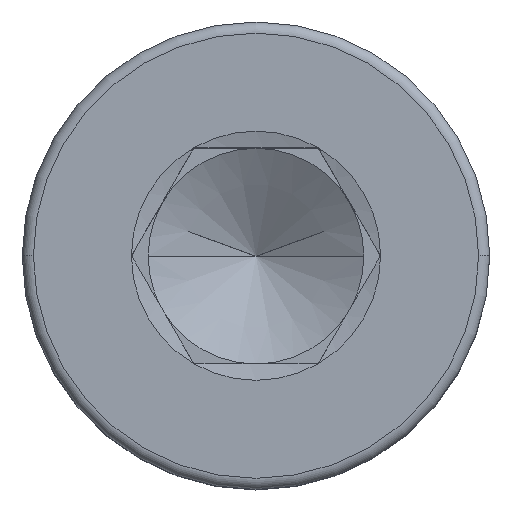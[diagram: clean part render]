
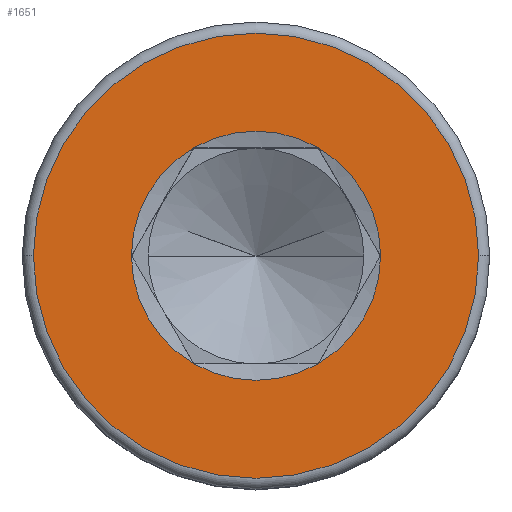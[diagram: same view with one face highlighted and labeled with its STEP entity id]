
A CAD part, top view. The second image highlights one B-rep face of the part: STEP entity #1651.
In plain terms, the highlighted planar face has unit normal (0, 0, 1).
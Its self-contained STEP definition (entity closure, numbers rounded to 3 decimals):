
#33 = AXIS2_PLACEMENT_3D ( 'NONE', #996, #1138, #444 ) ;
#43 = CARTESIAN_POINT ( 'NONE',  ( 3.464, 0., 8. ) ) ;
#86 = CIRCLE ( 'NONE', #488, 3.464 ) ;
#106 = EDGE_LOOP ( 'NONE', ( #1007, #1100 ) ) ;
#152 = CIRCLE ( 'NONE', #1048, 6.19 ) ;
#211 = CARTESIAN_POINT ( 'NONE',  ( 0., 0., 8. ) ) ;
#255 = FACE_BOUND ( 'NONE', #278, .T. ) ;
#261 = CIRCLE ( 'NONE', #1309, 6.19 ) ;
#263 = DIRECTION ( 'NONE',  ( 0., 0., 1. ) ) ;
#268 = DIRECTION ( 'NONE',  ( 1., 0., 0. ) ) ;
#278 = EDGE_LOOP ( 'NONE', ( #352, #645, #1452, #600, #609, #1114 ) ) ;
#295 = CARTESIAN_POINT ( 'NONE',  ( 0., 0., 8. ) ) ;
#309 = CARTESIAN_POINT ( 'NONE',  ( 0., 0., 8. ) ) ;
#347 = DIRECTION ( 'NONE',  ( 0., 0., 1. ) ) ;
#352 = ORIENTED_EDGE ( 'NONE', *, *, #388, .F. ) ;
#380 = DIRECTION ( 'NONE',  ( 1., 0., 0. ) ) ;
#388 = EDGE_CURVE ( 'NONE', #1576, #886, #1563, .T. ) ;
#392 = CARTESIAN_POINT ( 'NONE',  ( -1.732, -3., 8. ) ) ;
#394 = DIRECTION ( 'NONE',  ( 1., 0., 0. ) ) ;
#409 = VERTEX_POINT ( 'NONE', #547 ) ;
#444 = DIRECTION ( 'NONE',  ( 1., 0., 0. ) ) ;
#453 = CARTESIAN_POINT ( 'NONE',  ( -1.732, 3., 8. ) ) ;
#488 = AXIS2_PLACEMENT_3D ( 'NONE', #1755, #512, #653 ) ;
#490 = AXIS2_PLACEMENT_3D ( 'NONE', #1628, #347, #380 ) ;
#512 = DIRECTION ( 'NONE',  ( 0., 0., 1. ) ) ;
#539 = CARTESIAN_POINT ( 'NONE',  ( 0., 0., 8. ) ) ;
#540 = VERTEX_POINT ( 'NONE', #453 ) ;
#547 = CARTESIAN_POINT ( 'NONE',  ( 1.732, -3., 8. ) ) ;
#559 = CARTESIAN_POINT ( 'NONE',  ( -6.19, 0., 8. ) ) ;
#560 = DIRECTION ( 'NONE',  ( 1., 0., 0. ) ) ;
#600 = ORIENTED_EDGE ( 'NONE', *, *, #1047, .F. ) ;
#609 = ORIENTED_EDGE ( 'NONE', *, *, #922, .F. ) ;
#645 = ORIENTED_EDGE ( 'NONE', *, *, #1003, .F. ) ;
#649 = CARTESIAN_POINT ( 'NONE',  ( -3.464, 0., 8. ) ) ;
#653 = DIRECTION ( 'NONE',  ( 1., 0., 0. ) ) ;
#706 = CARTESIAN_POINT ( 'NONE',  ( 0., 0., 8. ) ) ;
#711 = CARTESIAN_POINT ( 'NONE',  ( 1.732, 3., 8. ) ) ;
#780 = VERTEX_POINT ( 'NONE', #559 ) ;
#782 = AXIS2_PLACEMENT_3D ( 'NONE', #309, #1160, #1008 ) ;
#843 = EDGE_CURVE ( 'NONE', #886, #540, #1677, .T. ) ;
#886 = VERTEX_POINT ( 'NONE', #711 ) ;
#922 = EDGE_CURVE ( 'NONE', #540, #1668, #1157, .T. ) ;
#938 = AXIS2_PLACEMENT_3D ( 'NONE', #706, #1257, #560 ) ;
#983 = DIRECTION ( 'NONE',  ( 1., 0., 0. ) ) ;
#996 = CARTESIAN_POINT ( 'NONE',  ( 0., 0., 8. ) ) ;
#1003 = EDGE_CURVE ( 'NONE', #409, #1576, #1536, .T. ) ;
#1007 = ORIENTED_EDGE ( 'NONE', *, *, #1461, .T. ) ;
#1008 = DIRECTION ( 'NONE',  ( 1., 0., 0. ) ) ;
#1018 = DIRECTION ( 'NONE',  ( 1., 0., 0. ) ) ;
#1043 = AXIS2_PLACEMENT_3D ( 'NONE', #295, #263, #983 ) ;
#1047 = EDGE_CURVE ( 'NONE', #1668, #1661, #86, .T. ) ;
#1048 = AXIS2_PLACEMENT_3D ( 'NONE', #1091, #1641, #394 ) ;
#1091 = CARTESIAN_POINT ( 'NONE',  ( 0., 0., 8. ) ) ;
#1099 = DIRECTION ( 'NONE',  ( 0., 0., 1. ) ) ;
#1100 = ORIENTED_EDGE ( 'NONE', *, *, #1350, .T. ) ;
#1113 = CIRCLE ( 'NONE', #938, 3.464 ) ;
#1114 = ORIENTED_EDGE ( 'NONE', *, *, #843, .F. ) ;
#1138 = DIRECTION ( 'NONE',  ( 0., 0., 1. ) ) ;
#1157 = CIRCLE ( 'NONE', #1679, 3.464 ) ;
#1160 = DIRECTION ( 'NONE',  ( 0., 0., 1. ) ) ;
#1257 = DIRECTION ( 'NONE',  ( 0., 0., 1. ) ) ;
#1309 = AXIS2_PLACEMENT_3D ( 'NONE', #539, #1099, #268 ) ;
#1320 = DIRECTION ( 'NONE',  ( 0., 0., 1. ) ) ;
#1331 = PLANE ( 'NONE',  #490 ) ;
#1350 = EDGE_CURVE ( 'NONE', #780, #1643, #152, .T. ) ;
#1359 = FACE_OUTER_BOUND ( 'NONE', #106, .T. ) ;
#1452 = ORIENTED_EDGE ( 'NONE', *, *, #1758, .F. ) ;
#1461 = EDGE_CURVE ( 'NONE', #1643, #780, #261, .T. ) ;
#1466 = CARTESIAN_POINT ( 'NONE',  ( 6.19, 0., 8. ) ) ;
#1536 = CIRCLE ( 'NONE', #782, 3.464 ) ;
#1563 = CIRCLE ( 'NONE', #33, 3.464 ) ;
#1576 = VERTEX_POINT ( 'NONE', #43 ) ;
#1628 = CARTESIAN_POINT ( 'NONE',  ( 0., 0., 8. ) ) ;
#1641 = DIRECTION ( 'NONE',  ( 0., 0., 1. ) ) ;
#1643 = VERTEX_POINT ( 'NONE', #1466 ) ;
#1651 = ADVANCED_FACE ( 'NONE', ( #1359, #255 ), #1331, .T. ) ;
#1661 = VERTEX_POINT ( 'NONE', #392 ) ;
#1668 = VERTEX_POINT ( 'NONE', #649 ) ;
#1677 = CIRCLE ( 'NONE', #1043, 3.464 ) ;
#1679 = AXIS2_PLACEMENT_3D ( 'NONE', #211, #1320, #1018 ) ;
#1755 = CARTESIAN_POINT ( 'NONE',  ( 0., 0., 8. ) ) ;
#1758 = EDGE_CURVE ( 'NONE', #1661, #409, #1113, .T. ) ;
